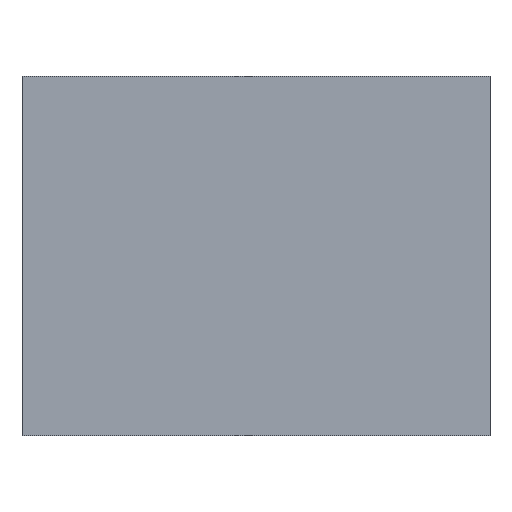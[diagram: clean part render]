
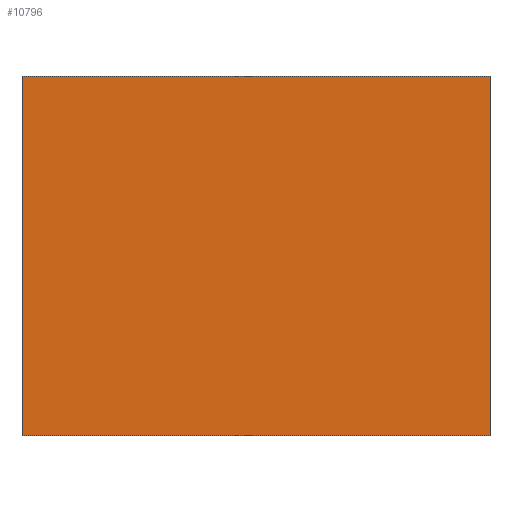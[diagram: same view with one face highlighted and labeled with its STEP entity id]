
A CAD part, front view. The second image highlights one B-rep face of the part: STEP entity #10796.
In plain terms, the highlighted planar face has unit normal (0, -1, 0).
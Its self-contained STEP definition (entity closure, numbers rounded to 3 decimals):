
#551 = CARTESIAN_POINT ( 'NONE',  ( -295.108, -195.083, -215.906 ) ) ;
#1880 = VECTOR ( 'NONE', #7262, 1000. ) ;
#2756 = VERTEX_POINT ( 'NONE', #11548 ) ;
#3446 = VECTOR ( 'NONE', #4616, 1000. ) ;
#3715 = VECTOR ( 'NONE', #7825, 1000. ) ;
#4616 = DIRECTION ( 'NONE',  ( 0., 0., -1. ) ) ;
#4717 = CARTESIAN_POINT ( 'NONE',  ( -295.108, -195.083, -215.906 ) ) ;
#4806 = VERTEX_POINT ( 'NONE', #12157 ) ;
#5506 = ORIENTED_EDGE ( 'NONE', *, *, #22625, .F. ) ;
#6350 = LINE ( 'NONE', #20257, #3446 ) ;
#7033 = LINE ( 'NONE', #12166, #1880 ) ;
#7262 = DIRECTION ( 'NONE',  ( 1., 0., 0. ) ) ;
#7825 = DIRECTION ( 'NONE',  ( 0., 0., 1. ) ) ;
#7984 = CARTESIAN_POINT ( 'NONE',  ( -295.108, -195.083, 237.26 ) ) ;
#8713 = VERTEX_POINT ( 'NONE', #4717 ) ;
#9448 = EDGE_CURVE ( 'NONE', #18926, #2756, #7033, .T. ) ;
#9760 = ORIENTED_EDGE ( 'NONE', *, *, #11532, .F. ) ;
#10796 = ADVANCED_FACE ( 'NONE', ( #21013 ), #22615, .T. ) ;
#11532 = EDGE_CURVE ( 'NONE', #8713, #18926, #16475, .T. ) ;
#11548 = CARTESIAN_POINT ( 'NONE',  ( 295.108, -195.083, 237.26 ) ) ;
#12110 = AXIS2_PLACEMENT_3D ( 'NONE', #20894, #20663, #18947 ) ;
#12157 = CARTESIAN_POINT ( 'NONE',  ( 295.108, -195.083, -215.906 ) ) ;
#12166 = CARTESIAN_POINT ( 'NONE',  ( -295.108, -195.083, 237.26 ) ) ;
#13285 = CARTESIAN_POINT ( 'NONE',  ( -295.108, -195.083, -215.906 ) ) ;
#13726 = ORIENTED_EDGE ( 'NONE', *, *, #17909, .F. ) ;
#14947 = EDGE_LOOP ( 'NONE', ( #9760, #13726, #5506, #18522 ) ) ;
#16420 = DIRECTION ( 'NONE',  ( -1., 0., 0. ) ) ;
#16475 = LINE ( 'NONE', #13285, #3715 ) ;
#17909 = EDGE_CURVE ( 'NONE', #4806, #8713, #21684, .T. ) ;
#18522 = ORIENTED_EDGE ( 'NONE', *, *, #9448, .F. ) ;
#18926 = VERTEX_POINT ( 'NONE', #7984 ) ;
#18947 = DIRECTION ( 'NONE',  ( 0., 0., -1. ) ) ;
#20257 = CARTESIAN_POINT ( 'NONE',  ( 295.108, -195.083, -215.906 ) ) ;
#20663 = DIRECTION ( 'NONE',  ( 0., -1., 0. ) ) ;
#20894 = CARTESIAN_POINT ( 'NONE',  ( 0., -195.083, 0. ) ) ;
#20901 = VECTOR ( 'NONE', #16420, 1000. ) ;
#21013 = FACE_OUTER_BOUND ( 'NONE', #14947, .T. ) ;
#21684 = LINE ( 'NONE', #551, #20901 ) ;
#22615 = PLANE ( 'NONE',  #12110 ) ;
#22625 = EDGE_CURVE ( 'NONE', #2756, #4806, #6350, .T. ) ;
